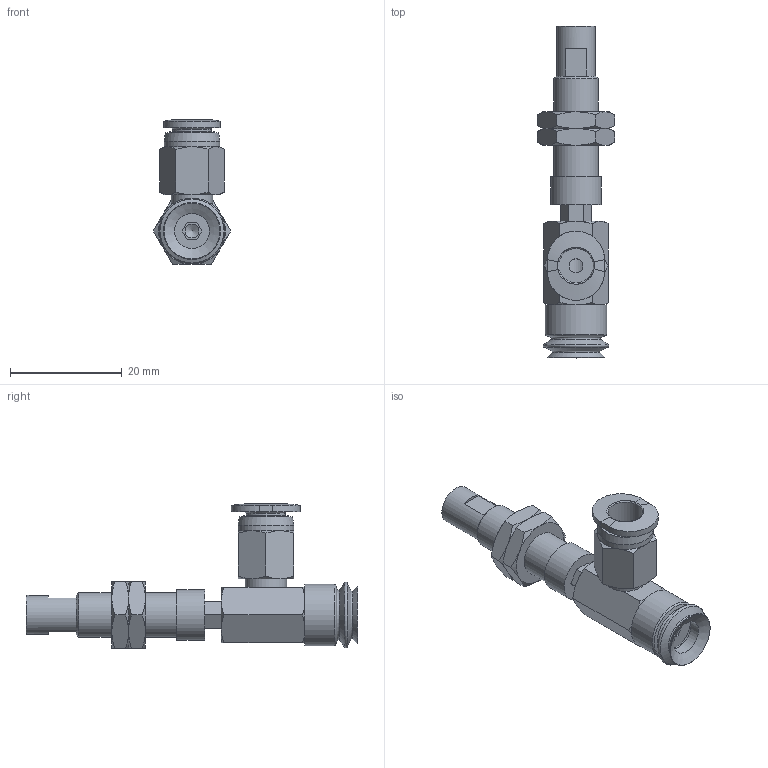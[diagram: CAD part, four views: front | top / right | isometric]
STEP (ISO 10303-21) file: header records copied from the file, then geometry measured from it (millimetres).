
FILE_DESCRIPTION(('STEP AP203'),'1');
FILE_NAME('-O.stp','2025-04-24T06:26:20',(' '),(' '),'Spatial InterOp 3D',' ',' ');
FILE_SCHEMA(('CONFIG_CONTROL_DESIGN'));
Length unit declared in the file: millimetre
Products named in the file (8): BNABPJYH-10-3-※-O; Adapter-10-NAPJ; CONNECTOR_H-10-3; NAPJH-10-3-NUT; NAPJTH-10-3-FBODY; NAPJTH-10-3-MBODY; BPJG-10-※; PC-C_06-M5
Assembly tree (8 placements, depth 2):
  BNABPJYH-10-3-※-O
    Adapter-10-NAPJ
    CONNECTOR_H-10-3
    NAPJH-10-3-NUT  x2
    NAPJTH-10-3-FBODY
    NAPJTH-10-3-MBODY
    BPJG-10-※
    PC-C_06-M5
Bounding box: 13.86 x 59.5 x 25.98 mm (x, y, z)
Volume: 3917.1 mm3; surface area: 5559.9 mm2
Topology: 7 solids, 10 shells, 200 faces, 429 edges, 262 vertices
Faces by surface type: plane 87, cone 72, cylinder 25, torus 9, bspline 4, revolution 3
Full cylindrical faces by diameter (mm): 2.5 x1, 4 x2, 4.134 x3, 4.6 x1, 5 x3, 6.266 x1, 7 x2, 7.188 x2, 7.4 x1, 7.8 x1, 8 x2, 8.2 x1, 9 x1, 10 x1, 11 x1
Entity records: 5412 total; most frequent: CARTESIAN_POINT 1558, DIRECTION 713, ORIENTED_EDGE 626, EDGE_CURVE 315, AXIS2_PLACEMENT_3D 299, EDGE_LOOP 256, VERTEX_POINT 222, FACE_OUTER_BOUND 148
